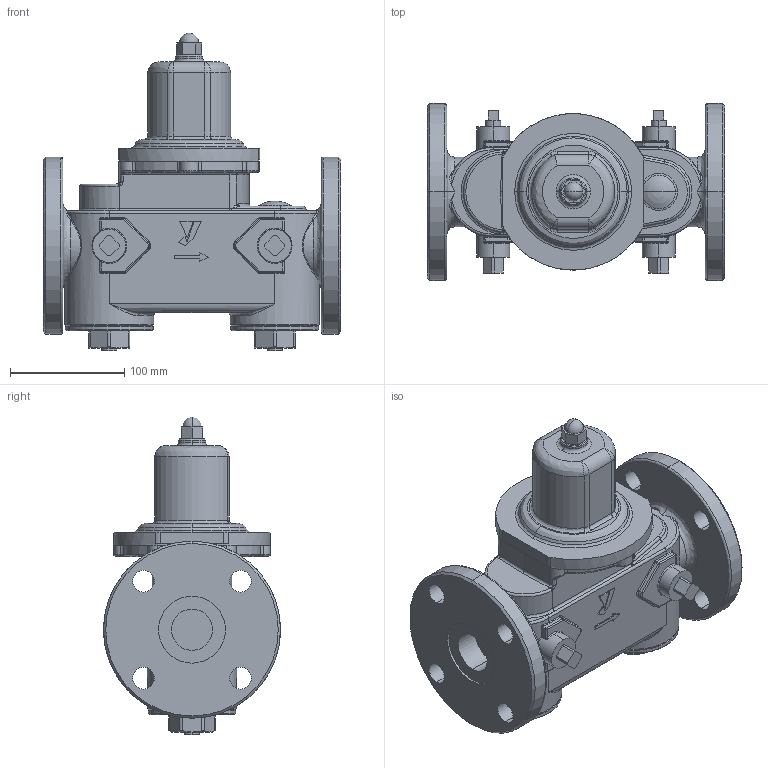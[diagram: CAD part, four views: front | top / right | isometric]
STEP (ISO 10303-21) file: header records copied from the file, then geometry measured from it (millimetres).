
FILE_DESCRIPTION( (''), '2;1');
FILE_NAME ('PC1028.13208.GP-27BP 50A_32256.stp','2024-12-18T14:21:44',(''),(''),'spGate 20.6.3 (****-****-****-****)','','');
FILE_SCHEMA (('AUTOMOTIVE_DESIGN'));
Length unit declared in the file: millimetre
Bounding box: 260 x 155 x 278 mm (x, y, z)
Volume: 3186004.8 mm3; surface area: 240075.3 mm2
Topology: 1 solids, 1 shells, 566 faces, 1357 edges, 783 vertices
Faces by surface type: cylinder 207, bspline 187, plane 148, sphere 24
Entity records: 32394 total; most frequent: CARTESIAN_POINT 9423, ORIENTED_EDGE 2644, DIRECTION 2419, COLOUR_RGB 1889, PRESENTATION_STYLE_ASSIGNMENT 1889, STYLED_ITEM 1889, EDGE_CURVE 1322, DRAUGHTING_PRE_DEFINED_CURVE_FONT 1322
